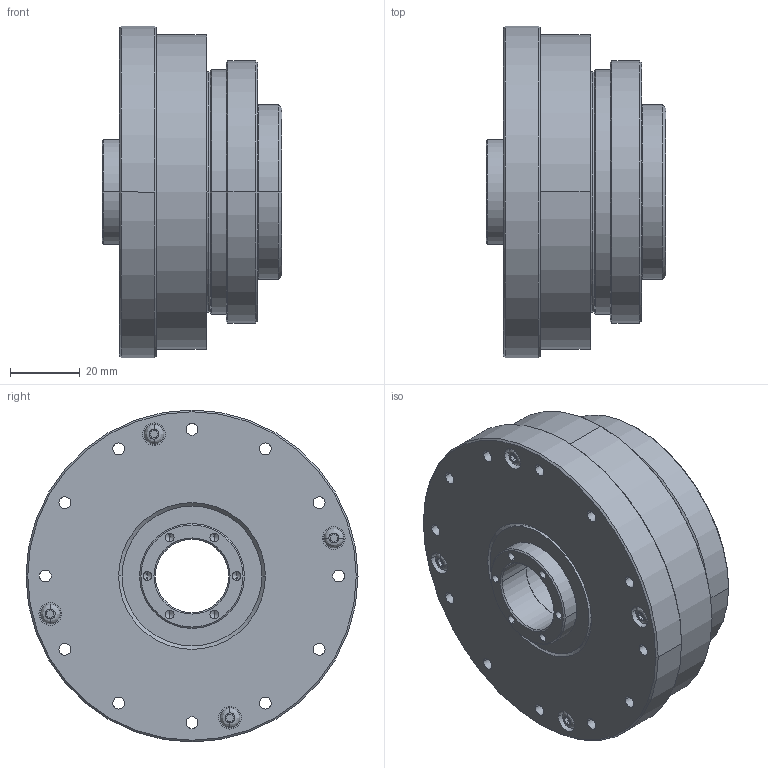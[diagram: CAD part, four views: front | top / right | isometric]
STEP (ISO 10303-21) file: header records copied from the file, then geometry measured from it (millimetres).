
FILE_DESCRIPTION(('STEP AP214'),'1');
FILE_NAME('cctmp_143AC749-D237-4964-8D1D-B878CA474817_2025_03_06_11_32_14_0516_85456..stp','2025-03-06T10:32:14',('HIWIN GmbH'),('CADClick - www.CADClick.com'),'Spatial InterOp 3D',' ','unknown authorization');
FILE_SCHEMA(('AUTOMOTIVE_DESIGN'));
Length unit declared in the file: millimetre
Products named in the file (2): DSH-20-XX-AH_FILE; 2025_03_06_11_32_14_0501
Assembly tree (1 placements, depth 2):
  DSH-20-XX-AH_FILE
    2025_03_06_11_32_14_0501
Bounding box: 51.5 x 95 x 95 mm (x, y, z)
Volume: 219891.7 mm3; surface area: 38790.2 mm2
Topology: 1 solids, 1 shells, 530 faces, 1254 edges, 778 vertices
Faces by surface type: cylinder 228, cone 154, plane 130, torus 10, bspline 8
Entity records: 19498 total; most frequent: DIRECTION 2894, CARTESIAN_POINT 2664, ORIENTED_EDGE 2396, EDGE_CURVE 1198, AXIS2_PLACEMENT_3D 1184, VERTEX_POINT 778, EDGE_LOOP 664, CIRCLE 660
